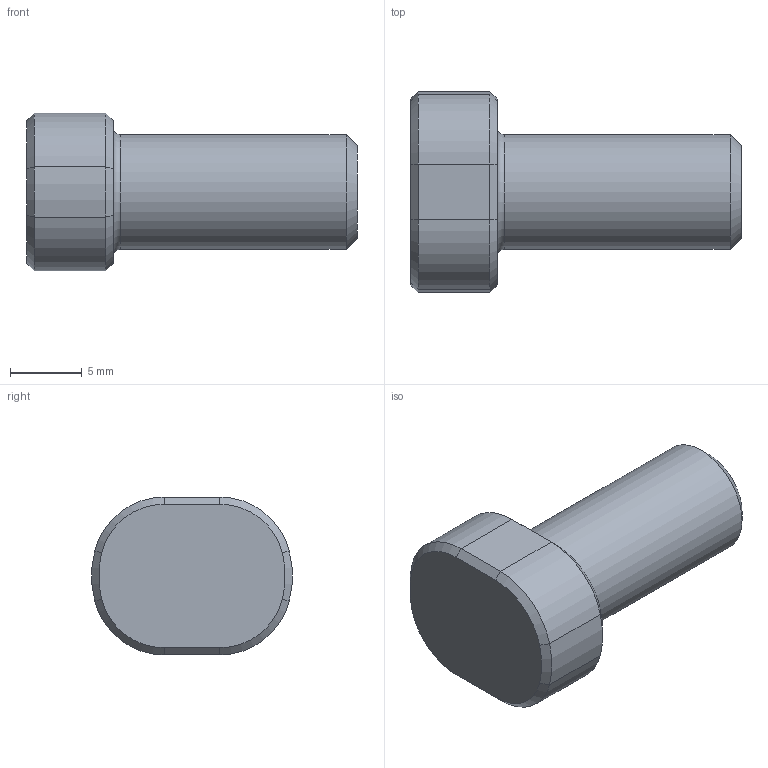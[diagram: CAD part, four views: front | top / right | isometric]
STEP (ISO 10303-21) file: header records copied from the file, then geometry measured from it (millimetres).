
FILE_DESCRIPTION(/* description */ ('STEP AP214'),/* implementation_level */ '2;1');
FILE_NAME(/* name */ 'F15140823',/* time_stamp */ '2024-09-04T15:26:41+02:00',/* author */ ('License CC BY-ND 4.0'),/* organization */ ('CADENAS'),/* preprocessor_version */ 'ST-DEVELOPER v19.3',/* originating_system */ 'PARTsolutions',/* authorisation */ ' ');
FILE_SCHEMA (('AUTOMOTIVE_DESIGN {1 0 10303 214 3 1 1}'));
Length unit declared in the file: millimetre
Products named in the file (1): F15140823
Bounding box: 23 x 13.95 x 11 mm (x, y, z)
Volume: 1627 mm3; surface area: 894.9 mm2
Topology: 1 solids, 1 shells, 30 faces, 63 edges, 36 vertices
Faces by surface type: cone 13, plane 9, cylinder 7, torus 1
Full cylindrical faces by diameter (mm): 8 x1
Entity records: 806 total; most frequent: DIRECTION 150, CARTESIAN_POINT 127, ORIENTED_EDGE 120, EDGE_CURVE 60, AXIS2_PLACEMENT_3D 59, VERTEX_POINT 36, EDGE_LOOP 34, FACE_BOUND 34
